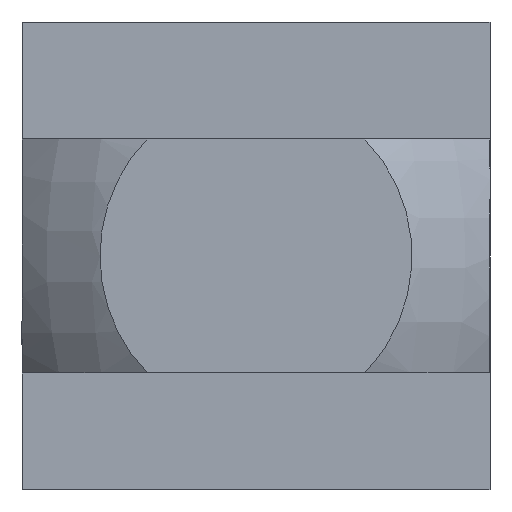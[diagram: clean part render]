
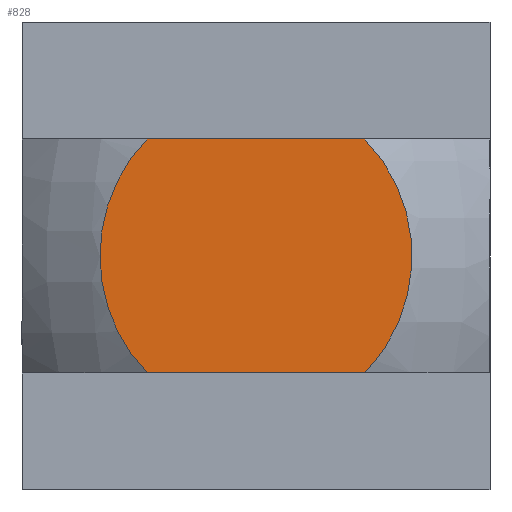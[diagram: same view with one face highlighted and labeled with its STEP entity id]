
A CAD part, left-side view. The second image highlights one B-rep face of the part: STEP entity #828.
In plain terms, the highlighted planar face has unit normal (-1, 0, 0).
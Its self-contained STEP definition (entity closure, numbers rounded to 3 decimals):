
#36 = CARTESIAN_POINT ( 'NONE',  ( -21., -8., -4. ) ) ;
#37 = LINE ( 'NONE', #36, #97 ) ;
#96 = DIRECTION ( 'NONE',  ( 0., 1., 0. ) ) ;
#97 = VECTOR ( 'NONE', #96, 1000. ) ;
#280 = B_SPLINE_CURVE_WITH_KNOTS ( 'NONE', 3,
 ( #339, #338, #337, #336, #335, #334, #333, #332, #331, #330, #329, #328, #327, #326, #325, #324, #323, #322, #321, #320, #319, #318 ),
 .UNSPECIFIED., .F., .F.,
 ( 4, 2, 2, 2, 2, 2, 2, 2, 2, 2, 4 ),
 ( 0.03, 0.031, 0.031, 0.032, 0.033, 0.034, 0.035, 0.036, 0.036, 0.037, 0.038 ),
 .UNSPECIFIED. ) ;
#281 = LINE ( 'NONE', #344, #343 ) ;
#282 = CARTESIAN_POINT ( 'NONE',  ( -21., 3.712, -4. ) ) ;
#283 = CARTESIAN_POINT ( 'NONE',  ( -21., 3.712, 4. ) ) ;
#308 = CARTESIAN_POINT ( 'NONE',  ( -21., -4.204, 3.446 ) ) ;
#309 = CARTESIAN_POINT ( 'NONE',  ( -21., -3.972, 3.736 ) ) ;
#310 = CARTESIAN_POINT ( 'NONE',  ( -21., -3.712, 4. ) ) ;
#311 = CARTESIAN_POINT ( 'NONE',  ( -21., -3.712, 4. ) ) ;
#312 = B_SPLINE_CURVE_WITH_KNOTS ( 'NONE', 3,
 ( #310, #309, #308, #379, #378, #377, #376, #375, #374, #373, #372, #371, #370, #369, #368, #367, #366, #365, #364, #363, #362, #361 ),
 .UNSPECIFIED., .F., .F.,
 ( 4, 2, 2, 2, 2, 2, 2, 2, 2, 2, 4 ),
 ( 0.013, 0.014, 0.014, 0.015, 0.016, 0.017, 0.018, 0.019, 0.019, 0.02, 0.021 ),
 .UNSPECIFIED. ) ;
#313 = CARTESIAN_POINT ( 'NONE',  ( -21., -3.712, -4. ) ) ;
#314 = DIRECTION ( 'NONE',  ( 0., 0., 1. ) ) ;
#315 = DIRECTION ( 'NONE',  ( -1., 0., 0. ) ) ;
#316 = CARTESIAN_POINT ( 'NONE',  ( -21., 8., -8. ) ) ;
#317 = AXIS2_PLACEMENT_3D ( 'NONE', #316, #315, #314 ) ;
#318 = CARTESIAN_POINT ( 'NONE',  ( -21., 3.712, 4. ) ) ;
#319 = CARTESIAN_POINT ( 'NONE',  ( -21., 3.97, 3.738 ) ) ;
#320 = CARTESIAN_POINT ( 'NONE',  ( -21., 4.205, 3.446 ) ) ;
#321 = CARTESIAN_POINT ( 'NONE',  ( -21., 4.606, 2.83 ) ) ;
#322 = CARTESIAN_POINT ( 'NONE',  ( -21., 4.776, 2.505 ) ) ;
#323 = CARTESIAN_POINT ( 'NONE',  ( -21., 4.983, 1.991 ) ) ;
#324 = CARTESIAN_POINT ( 'NONE',  ( -21., 5.045, 1.815 ) ) ;
#325 = CARTESIAN_POINT ( 'NONE',  ( -21., 5.149, 1.461 ) ) ;
#326 = CARTESIAN_POINT ( 'NONE',  ( -21., 5.193, 1.282 ) ) ;
#327 = CARTESIAN_POINT ( 'NONE',  ( -21., 5.297, 0.742 ) ) ;
#328 = CARTESIAN_POINT ( 'NONE',  ( -21., 5.333, 0.376 ) ) ;
#329 = CARTESIAN_POINT ( 'NONE',  ( -21., 5.334, -0.367 ) ) ;
#330 = CARTESIAN_POINT ( 'NONE',  ( -21., 5.298, -0.736 ) ) ;
#331 = CARTESIAN_POINT ( 'NONE',  ( -21., 5.157, -1.466 ) ) ;
#332 = CARTESIAN_POINT ( 'NONE',  ( -21., 5.052, -1.82 ) ) ;
#333 = CARTESIAN_POINT ( 'NONE',  ( -21., 4.846, -2.331 ) ) ;
#334 = CARTESIAN_POINT ( 'NONE',  ( -21., 4.769, -2.498 ) ) ;
#335 = CARTESIAN_POINT ( 'NONE',  ( -21., 4.599, -2.826 ) ) ;
#336 = CARTESIAN_POINT ( 'NONE',  ( -21., 4.504, -2.987 ) ) ;
#337 = CARTESIAN_POINT ( 'NONE',  ( -21., 4.201, -3.451 ) ) ;
#338 = CARTESIAN_POINT ( 'NONE',  ( -21., 3.971, -3.737 ) ) ;
#339 = CARTESIAN_POINT ( 'NONE',  ( -21., 3.712, -4. ) ) ;
#340 = PLANE ( 'NONE',  #317 ) ;
#341 = FACE_OUTER_BOUND ( 'NONE', #840, .T. ) ;
#342 = DIRECTION ( 'NONE',  ( 0., 1., 0. ) ) ;
#343 = VECTOR ( 'NONE', #342, 1000. ) ;
#344 = CARTESIAN_POINT ( 'NONE',  ( -21., -8., 4. ) ) ;
#361 = CARTESIAN_POINT ( 'NONE',  ( -21., -3.712, -4. ) ) ;
#362 = CARTESIAN_POINT ( 'NONE',  ( -21., -3.969, -3.739 ) ) ;
#363 = CARTESIAN_POINT ( 'NONE',  ( -21., -4.2, -3.452 ) ) ;
#364 = CARTESIAN_POINT ( 'NONE',  ( -21., -4.607, -2.83 ) ) ;
#365 = CARTESIAN_POINT ( 'NONE',  ( -21., -4.777, -2.502 ) ) ;
#366 = CARTESIAN_POINT ( 'NONE',  ( -21., -4.983, -1.992 ) ) ;
#367 = CARTESIAN_POINT ( 'NONE',  ( -21., -5.044, -1.818 ) ) ;
#368 = CARTESIAN_POINT ( 'NONE',  ( -21., -5.148, -1.464 ) ) ;
#369 = CARTESIAN_POINT ( 'NONE',  ( -21., -5.193, -1.283 ) ) ;
#370 = CARTESIAN_POINT ( 'NONE',  ( -21., -5.298, -0.738 ) ) ;
#371 = CARTESIAN_POINT ( 'NONE',  ( -21., -5.333, -0.372 ) ) ;
#372 = CARTESIAN_POINT ( 'NONE',  ( -21., -5.334, 0.364 ) ) ;
#373 = CARTESIAN_POINT ( 'NONE',  ( -21., -5.298, 0.737 ) ) ;
#374 = CARTESIAN_POINT ( 'NONE',  ( -21., -5.158, 1.461 ) ) ;
#375 = CARTESIAN_POINT ( 'NONE',  ( -21., -5.055, 1.813 ) ) ;
#376 = CARTESIAN_POINT ( 'NONE',  ( -21., -4.848, 2.328 ) ) ;
#377 = CARTESIAN_POINT ( 'NONE',  ( -21., -4.77, 2.497 ) ) ;
#378 = CARTESIAN_POINT ( 'NONE',  ( -21., -4.599, 2.825 ) ) ;
#379 = CARTESIAN_POINT ( 'NONE',  ( -21., -4.506, 2.984 ) ) ;
#678 = ORIENTED_EDGE ( 'NONE', *, *, #679, .F. ) ;
#679 = EDGE_CURVE ( 'NONE', #832, #825, #37, .T. ) ;
#822 = ORIENTED_EDGE ( 'NONE', *, *, #826, .T. ) ;
#823 = VERTEX_POINT ( 'NONE', #283 ) ;
#824 = EDGE_CURVE ( 'NONE', #825, #823, #280, .T. ) ;
#825 = VERTEX_POINT ( 'NONE', #282 ) ;
#826 = EDGE_CURVE ( 'NONE', #831, #823, #281, .T. ) ;
#827 = ORIENTED_EDGE ( 'NONE', *, *, #824, .F. ) ;
#828 = ADVANCED_FACE ( 'NONE', ( #341 ), #340, .T. ) ;
#829 = ORIENTED_EDGE ( 'NONE', *, *, #830, .F. ) ;
#830 = EDGE_CURVE ( 'NONE', #831, #832, #312, .T. ) ;
#831 = VERTEX_POINT ( 'NONE', #311 ) ;
#832 = VERTEX_POINT ( 'NONE', #313 ) ;
#840 = EDGE_LOOP ( 'NONE', ( #829, #822, #827, #678 ) ) ;
